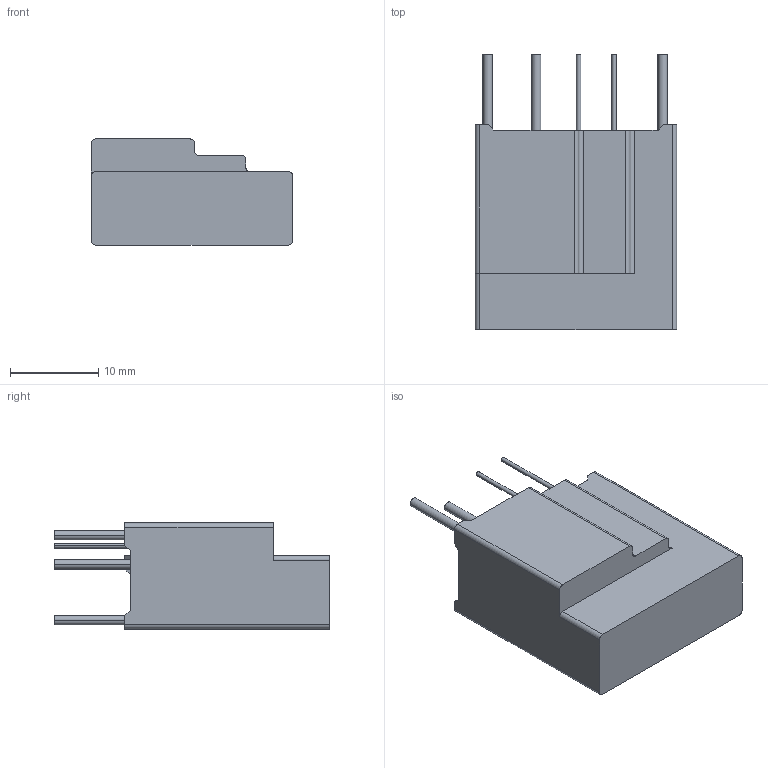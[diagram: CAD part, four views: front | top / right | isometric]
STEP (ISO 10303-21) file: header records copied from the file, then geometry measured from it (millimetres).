
FILE_DESCRIPTION((''),'2;1');
FILE_NAME('20S4501-IT-20200616','2020-06-19T',('set'),(''),'PRO/ENGINEER BY PARAMETRIC TECHNOLOGY CORPORATION, 2012310','PRO/ENGINEER BY PARAMETRIC TECHNOLOGY CORPORATION, 2012310','');
FILE_SCHEMA(('CONFIG_CONTROL_DESIGN','SHAPE_APPEARANCE_LAYERS_GROUPS'));
Length unit declared in the file: millimetre
Products named in the file (1): 20S4501-IT-20200616
Bounding box: 22.8 x 31.2 x 12 mm (x, y, z)
Volume: 1482.7 mm3; surface area: 3854.5 mm2
Topology: 1 solids, 2 shells, 110 faces, 303 edges, 202 vertices
Faces by surface type: plane 80, cylinder 30
Entity records: 3536 total; most frequent: CARTESIAN_POINT 615, ORIENTED_EDGE 606, DIRECTION 583, EDGE_CURVE 303, VECTOR 243, LINE 243, VERTEX_POINT 202, AXIS2_PLACEMENT_3D 170
